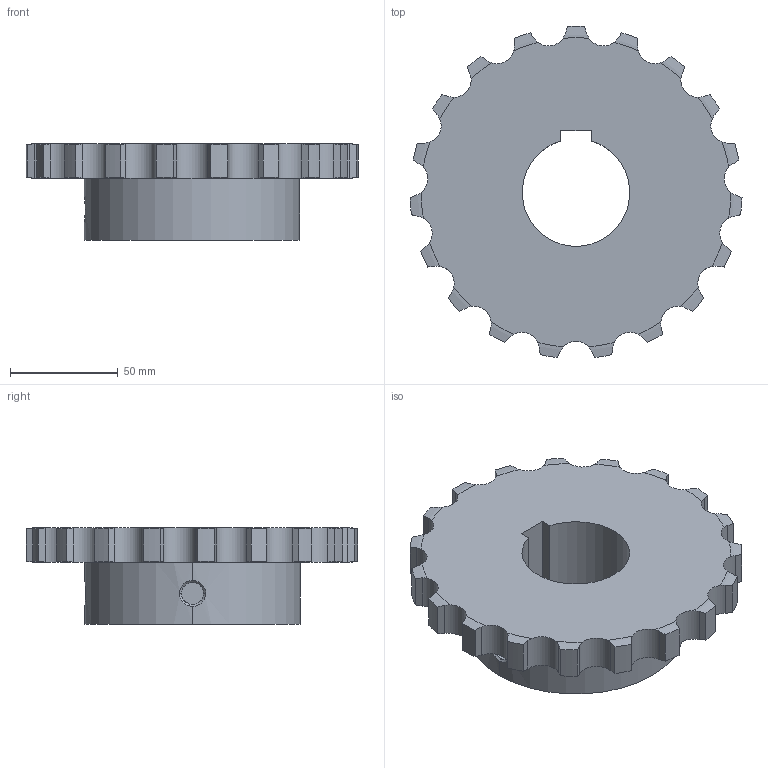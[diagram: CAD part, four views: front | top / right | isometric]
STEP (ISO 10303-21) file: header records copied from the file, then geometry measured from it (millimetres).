
FILE_DESCRIPTION((''),'2;1');
FILE_NAME('510-501-5019_PRT','2021-02-13T',('Brieden'),('Brieden'),'PRO/ENGINEER BY PARAMETRIC TECHNOLOGY CORPORATION, 2010160','PRO/ENGINEER BY PARAMETRIC TECHNOLOGY CORPORATION, 2010160','');
FILE_SCHEMA(('AUTOMOTIVE_DESIGN { 1 0 10303 214 1 1 1 1 }'));
Length unit declared in the file: millimetre
Products named in the file (1): 510-501-5019_PRT
Bounding box: 154.26 x 153.82 x 45 mm (x, y, z)
Volume: 404761.4 mm3; surface area: 56755.1 mm2
Topology: 1 solids, 1 shells, 135 faces, 387 edges, 256 vertices
Faces by surface type: cylinder 83, torus 38, plane 8, bspline 6
Entity records: 6772 total; most frequent: CARTESIAN_POINT 2227, ORIENTED_EDGE 774, DIRECTION 605, PRESENTATION_STYLE_ASSIGNMENT 388, STYLED_ITEM 388, CURVE_STYLE 387, EDGE_CURVE 387, VERTEX_POINT 256
